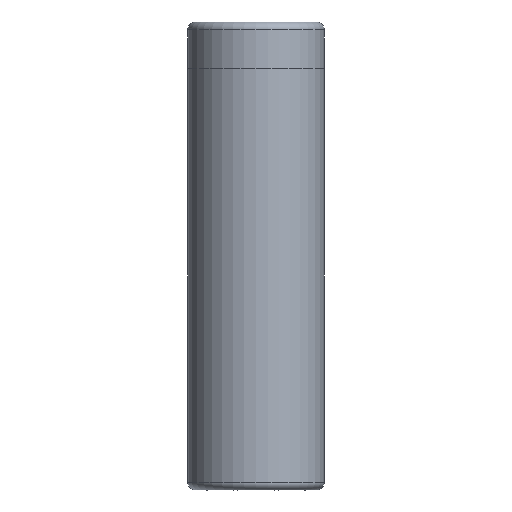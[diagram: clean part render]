
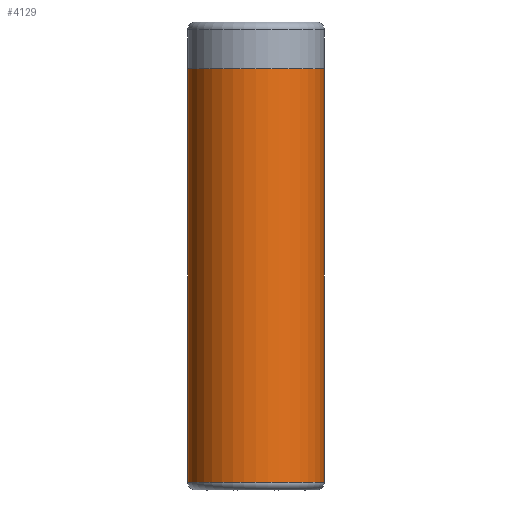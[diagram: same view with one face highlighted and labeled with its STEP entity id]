
A CAD part, front view. The second image highlights one B-rep face of the part: STEP entity #4129.
In plain terms, the highlighted cylindrical face has radius 22.225 mm (diameter 44.45 mm), a full revolution.
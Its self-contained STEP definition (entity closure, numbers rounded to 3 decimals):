
#535=FACE_OUTER_BOUND('',#817,.T.);
#817=EDGE_LOOP('',(#3720,#3721,#3722,#3723,#3724));
#1015=CIRCLE('',#4579,22.225);
#1016=CIRCLE('',#4580,22.225);
#1018=CIRCLE('',#4584,22.225);
#1363=LINE('',#16864,#1509);
#1509=VECTOR('',#5602,22.225);
#1899=VERTEX_POINT('',#16854);
#1900=VERTEX_POINT('',#16856);
#1902=VERTEX_POINT('',#16863);
#2518=EDGE_CURVE('',#1899,#1900,#1015,.T.);
#2519=EDGE_CURVE('',#1900,#1899,#1016,.T.);
#2521=EDGE_CURVE('',#1900,#1902,#1363,.T.);
#2522=EDGE_CURVE('',#1902,#1902,#1018,.T.);
#3720=ORIENTED_EDGE('',*,*,#2519,.F.);
#3721=ORIENTED_EDGE('',*,*,#2521,.T.);
#3722=ORIENTED_EDGE('',*,*,#2522,.T.);
#3723=ORIENTED_EDGE('',*,*,#2521,.F.);
#3724=ORIENTED_EDGE('',*,*,#2518,.F.);
#3881=CYLINDRICAL_SURFACE('',#4583,22.225);
#4129=ADVANCED_FACE('',(#535),#3881,.T.);
#4579=AXIS2_PLACEMENT_3D('',#16857,#5592,#5593);
#4580=AXIS2_PLACEMENT_3D('',#16858,#5594,#5595);
#4583=AXIS2_PLACEMENT_3D('',#16862,#5600,#5601);
#4584=AXIS2_PLACEMENT_3D('',#16865,#5603,#5604);
#5592=DIRECTION('center_axis',(0.,0.,-1.));
#5593=DIRECTION('ref_axis',(1.,0.,0.));
#5594=DIRECTION('center_axis',(0.,0.,-1.));
#5595=DIRECTION('ref_axis',(1.,0.,0.));
#5600=DIRECTION('center_axis',(0.,0.,-1.));
#5601=DIRECTION('ref_axis',(0.,1.,0.));
#5602=DIRECTION('',(0.,0.,1.));
#5603=DIRECTION('center_axis',(0.,0.,-1.));
#5604=DIRECTION('ref_axis',(1.,0.,0.));
#16854=CARTESIAN_POINT('',(22.225,0.,2.54));
#16856=CARTESIAN_POINT('',(0.,-22.225,2.54));
#16857=CARTESIAN_POINT('Origin',(0.,0.,2.54));
#16858=CARTESIAN_POINT('Origin',(0.,0.,2.54));
#16862=CARTESIAN_POINT('Origin',(0.,0.,69.85));
#16863=CARTESIAN_POINT('',(0.,-22.225,137.16));
#16864=CARTESIAN_POINT('',(0.,-22.225,69.85));
#16865=CARTESIAN_POINT('Origin',(0.,0.,137.16));
